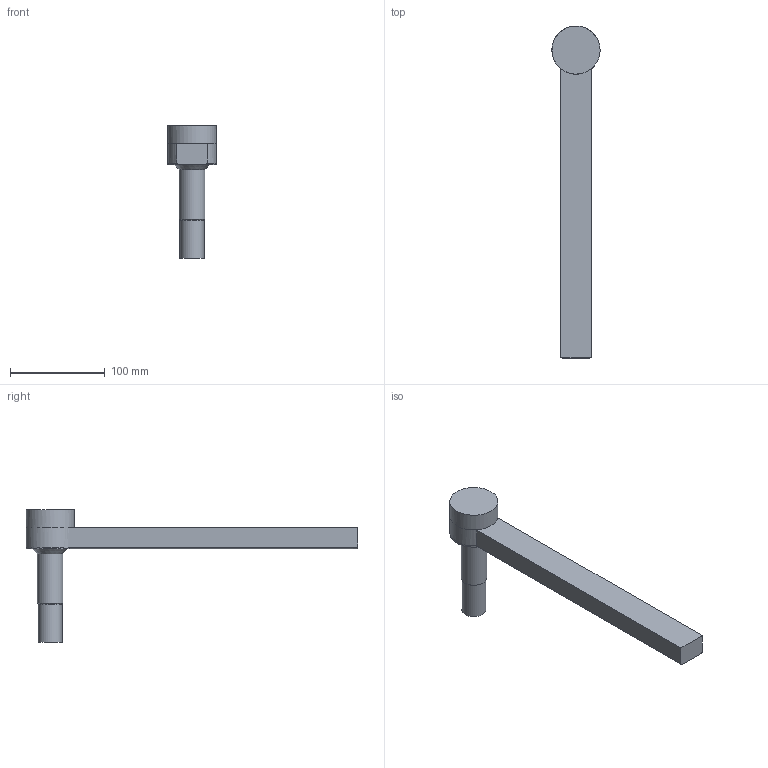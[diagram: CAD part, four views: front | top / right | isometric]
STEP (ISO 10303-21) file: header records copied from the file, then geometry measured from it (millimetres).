
FILE_DESCRIPTION(/* description */ (''),/* implementation_level */ '2;1');
FILE_NAME(/* name */ 'B0691TRUPas.stp',/* time_stamp */ '2019-10-03T08:22:13-04:00',/* author */ (''),/* organization */ (''),/* preprocessor_version */ 'ST-DEVELOPER v16',/* originating_system */ 'SIEMENS PLM Software NX 11.0',/* authorisation */ '');
FILE_SCHEMA (('AUTOMOTIVE_DESIGN { 1 0 10303 214 3 1 1 1 }'));
Length unit declared in the file: inch
Products named in the file (3): B06XX_SubSolid; B0691TRUPd; B0691TRUPas
Assembly tree (2 placements, depth 2):
  B0691TRUPas
    B0691TRUPd
    B06XX_SubSolid
Bounding box: 50.91 x 350.87 x 140.49 mm (x, y, z)
Volume: 434652.8 mm3; surface area: 70284.3 mm2
Topology: 2 solids, 3 shells, 34 faces, 72 edges, 45 vertices
Faces by surface type: plane 13, cylinder 10, cone 6, torus 3, sphere 1, revolution 1
Full cylindrical faces by diameter (mm): 8.731 x2, 25.4 x2, 26.987 x1, 50.927 x1
Entity records: 874 total; most frequent: CARTESIAN_POINT 167, DIRECTION 142, ORIENTED_EDGE 96, AXIS2_PLACEMENT_3D 62, EDGE_LOOP 54, EDGE_CURVE 48, FACE_BOUND 45, VERTEX_POINT 40
